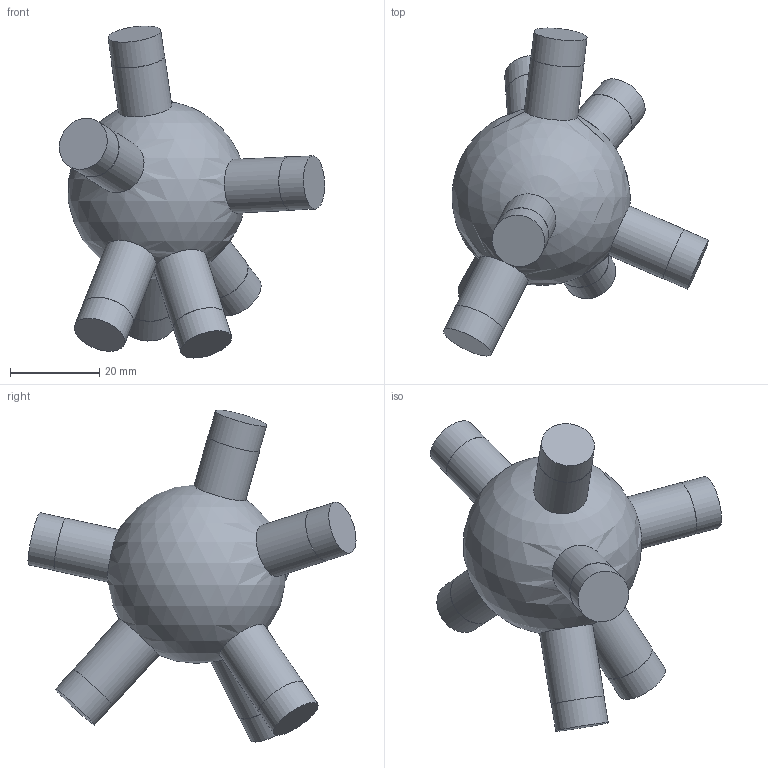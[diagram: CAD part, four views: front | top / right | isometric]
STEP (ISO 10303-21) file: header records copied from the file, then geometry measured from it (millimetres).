
FILE_DESCRIPTION(('Open CASCADE Model'),'2;1');
FILE_NAME('Open CASCADE Shape Model','2026-10-21T12:47:57',('Author'),( 'Open CASCADE'),'Open CASCADE STEP processor 7.9','Open CASCADE 7.9' ,'Unknown');
FILE_SCHEMA(('AUTOMOTIVE_DESIGN { 1 0 10303 214 1 1 1 1 }'));
Length unit declared in the file: millimetre
Products named in the file (1): Open CASCADE STEP translator 7.9 18
Bounding box: 59.33 x 73.34 x 74.22 mm (x, y, z)
Volume: 50660.5 mm3; surface area: 10871 mm2
Topology: 1 solids, 1 shells, 33 faces, 59 edges, 40 vertices
Faces by surface type: cylinder 16, plane 16, sphere 1
Full cylindrical faces by diameter (mm): 11.9 x8, 12 x8
Entity records: 2543 total; most frequent: CARTESIAN_POINT 1276, DIRECTION 256, ORIENTED_EDGE 112, PCURVE 112, DEFINITIONAL_REPRESENTATION 112, LINE 84, VECTOR 84, AXIS2_PLACEMENT_3D 74
